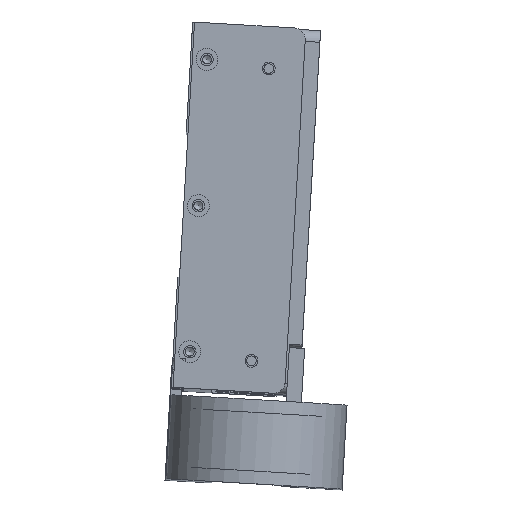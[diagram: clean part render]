
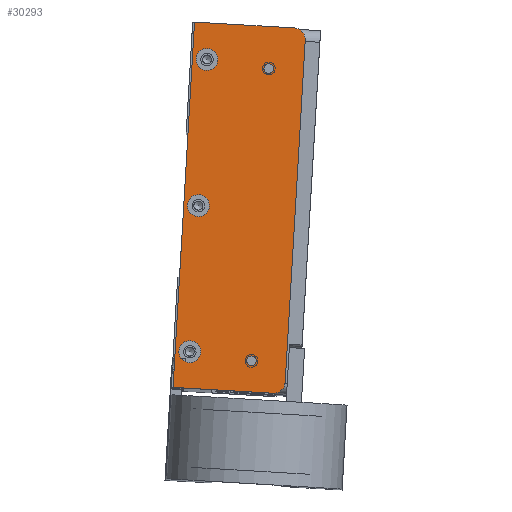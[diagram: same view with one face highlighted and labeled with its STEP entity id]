
A CAD part, top view. The second image highlights one B-rep face of the part: STEP entity #30293.
In plain terms, the highlighted planar face has unit normal (0, 0, 1) as drawn and (0, -1, 0) by its records, which use the part's own axes.
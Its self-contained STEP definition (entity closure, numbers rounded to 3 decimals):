
#888=PLANE($,#32971);
#2092=FACE_BOUND($,#5630,.T.);
#2093=FACE_BOUND($,#5631,.T.);
#2094=FACE_BOUND($,#5632,.T.);
#2095=FACE_BOUND($,#5633,.T.);
#2096=FACE_BOUND($,#5634,.T.);
#2097=FACE_BOUND($,#5635,.T.);
#5630=EDGE_LOOP($,(#24218));
#5631=EDGE_LOOP($,(#24219));
#5632=EDGE_LOOP($,(#24220));
#5633=EDGE_LOOP($,(#24221));
#5634=EDGE_LOOP($,(#24222));
#5635=EDGE_LOOP($,(#24223,#24224,#24225,#24226,#24227,#24228));
#7815=LINE($,#48226,#10405);
#7818=LINE($,#48242,#10408);
#7819=LINE($,#48244,#10409);
#7820=LINE($,#48246,#10410);
#10405=VECTOR($,#38754,93.65);
#10408=VECTOR($,#38769,27.325);
#10409=VECTOR($,#38770,100.);
#10410=VECTOR($,#38771,27.325);
#13021=CIRCLE($,#32968,3.175);
#13023=CIRCLE($,#32972,3.);
#13024=CIRCLE($,#32973,3.);
#13025=CIRCLE($,#32974,3.);
#13026=CIRCLE($,#32975,1.321);
#13027=CIRCLE($,#32976,1.321);
#13028=CIRCLE($,#32977,3.175);
#14832=VERTEX_POINT($,#48216);
#14833=VERTEX_POINT($,#48217);
#14836=VERTEX_POINT($,#48225);
#14838=VERTEX_POINT($,#48231);
#14839=VERTEX_POINT($,#48233);
#14840=VERTEX_POINT($,#48235);
#14841=VERTEX_POINT($,#48237);
#14842=VERTEX_POINT($,#48239);
#14843=VERTEX_POINT($,#48241);
#14844=VERTEX_POINT($,#48243);
#14845=VERTEX_POINT($,#48245);
#18269=EDGE_CURVE($,#14832,#14833,#13021,.T.);
#18273=EDGE_CURVE($,#14833,#14836,#7815,.T.);
#18276=EDGE_CURVE($,#14838,#14838,#13023,.T.);
#18277=EDGE_CURVE($,#14839,#14839,#13024,.T.);
#18278=EDGE_CURVE($,#14840,#14840,#13025,.T.);
#18279=EDGE_CURVE($,#14841,#14841,#13026,.T.);
#18280=EDGE_CURVE($,#14842,#14842,#13027,.T.);
#18281=EDGE_CURVE($,#14832,#14843,#7818,.T.);
#18282=EDGE_CURVE($,#14843,#14844,#7819,.T.);
#18283=EDGE_CURVE($,#14844,#14845,#7820,.T.);
#18284=EDGE_CURVE($,#14836,#14845,#13028,.T.);
#24218=ORIENTED_EDGE($,*,*,#18276,.T.);
#24219=ORIENTED_EDGE($,*,*,#18277,.T.);
#24220=ORIENTED_EDGE($,*,*,#18278,.T.);
#24221=ORIENTED_EDGE($,*,*,#18279,.T.);
#24222=ORIENTED_EDGE($,*,*,#18280,.T.);
#24223=ORIENTED_EDGE($,*,*,#18269,.F.);
#24224=ORIENTED_EDGE($,*,*,#18281,.T.);
#24225=ORIENTED_EDGE($,*,*,#18282,.T.);
#24226=ORIENTED_EDGE($,*,*,#18283,.T.);
#24227=ORIENTED_EDGE($,*,*,#18284,.F.);
#24228=ORIENTED_EDGE($,*,*,#18273,.F.);
#30293=ADVANCED_FACE($,(#2092,#2093,#2094,#2095,#2096,#2097),#888,.T.);
#32968=AXIS2_PLACEMENT_3D($,#48218,#38746,#38747);
#32971=AXIS2_PLACEMENT_3D($,#48230,#38757,#38758);
#32972=AXIS2_PLACEMENT_3D($,#48232,#38759,#38760);
#32973=AXIS2_PLACEMENT_3D($,#48234,#38761,#38762);
#32974=AXIS2_PLACEMENT_3D($,#48236,#38763,#38764);
#32975=AXIS2_PLACEMENT_3D($,#48238,#38765,#38766);
#32976=AXIS2_PLACEMENT_3D($,#48240,#38767,#38768);
#32977=AXIS2_PLACEMENT_3D($,#48247,#38772,#38773);
#38746=DIRECTION('center_axis',(0.,1.,0.));
#38747=DIRECTION('ref_axis',(0.707,0.,0.707));
#38754=DIRECTION($,(0.,0.,-1.));
#38757=DIRECTION('center_axis',(0.,-1.,0.));
#38758=DIRECTION('ref_axis',(0.,0.,-1.));
#38759=DIRECTION('center_axis',(0.,1.,0.));
#38760=DIRECTION('ref_axis',(1.,0.,0.));
#38761=DIRECTION('center_axis',(0.,1.,0.));
#38762=DIRECTION('ref_axis',(1.,0.,0.));
#38763=DIRECTION('center_axis',(0.,1.,0.));
#38764=DIRECTION('ref_axis',(1.,0.,0.));
#38765=DIRECTION('center_axis',(0.,1.,0.));
#38766=DIRECTION('ref_axis',(1.,0.,0.));
#38767=DIRECTION('center_axis',(0.,1.,0.));
#38768=DIRECTION('ref_axis',(1.,0.,0.));
#38769=DIRECTION($,(-1.,0.,0.));
#38770=DIRECTION($,(0.,0.,-1.));
#38771=DIRECTION($,(1.,0.,0.));
#38772=DIRECTION('center_axis',(0.,1.,0.));
#38773=DIRECTION('ref_axis',(0.707,0.,-0.707));
#48216=CARTESIAN_POINT('',(12.075,-2.5,50.));
#48217=CARTESIAN_POINT('',(15.25,-2.5,46.825));
#48218=CARTESIAN_POINT('Origin',(12.075,-2.5,46.825));
#48225=CARTESIAN_POINT('',(15.25,-2.5,-46.825));
#48226=CARTESIAN_POINT($,(15.25,-2.5,0.));
#48230=CARTESIAN_POINT('Origin',(15.25,-2.5,0.));
#48231=CARTESIAN_POINT('',(-8.25,-2.5,0.));
#48232=CARTESIAN_POINT('Origin',(-11.25,-2.5,0.));
#48233=CARTESIAN_POINT('',(-8.25,-2.5,40.));
#48234=CARTESIAN_POINT('Origin',(-11.25,-2.5,40.));
#48235=CARTESIAN_POINT('',(-8.25,-2.5,-40.));
#48236=CARTESIAN_POINT('Origin',(-11.25,-2.5,-40.));
#48237=CARTESIAN_POINT('',(7.071,-2.5,38.5));
#48238=CARTESIAN_POINT('Origin',(5.75,-2.5,38.5));
#48239=CARTESIAN_POINT('',(7.037,-2.5,-41.5));
#48240=CARTESIAN_POINT('Origin',(5.716,-2.5,-41.5));
#48241=CARTESIAN_POINT('',(-15.25,-2.5,50.));
#48242=CARTESIAN_POINT($,(15.25,-2.5,50.));
#48243=CARTESIAN_POINT('',(-15.25,-2.5,-50.));
#48244=CARTESIAN_POINT($,(-15.25,-2.5,0.));
#48245=CARTESIAN_POINT('',(12.075,-2.5,-50.));
#48246=CARTESIAN_POINT($,(15.25,-2.5,-50.));
#48247=CARTESIAN_POINT('Origin',(12.075,-2.5,-46.825));
